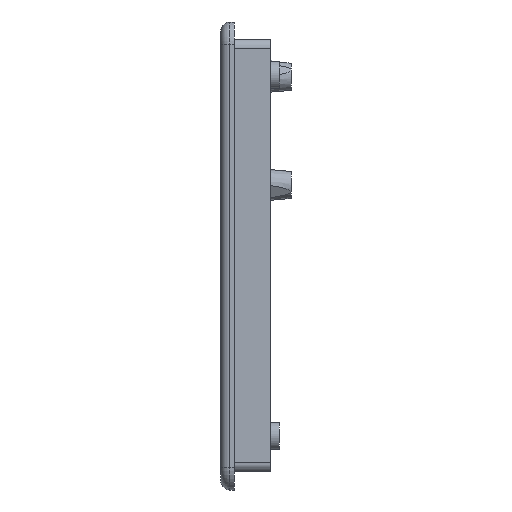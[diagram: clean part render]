
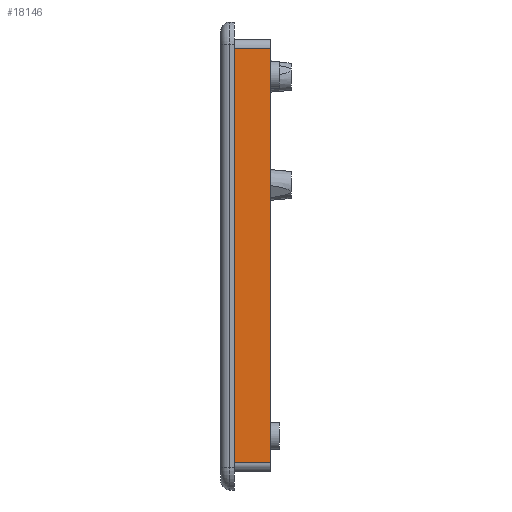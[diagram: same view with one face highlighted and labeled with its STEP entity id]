
A CAD part, left-side view. The second image highlights one B-rep face of the part: STEP entity #18146.
In plain terms, the highlighted planar face has unit normal (-1, 0, 0).
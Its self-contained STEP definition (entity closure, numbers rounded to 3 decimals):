
#1910=FACE_OUTER_BOUND('',#3052,.T.);
#3052=EDGE_LOOP('',(#16398,#16399,#16400,#16401));
#4984=LINE('',#31573,#6921);
#4992=LINE('',#31595,#6929);
#4993=LINE('',#31598,#6930);
#4994=LINE('',#31599,#6931);
#6921=VECTOR('',#24064,10.);
#6929=VECTOR('',#24088,10.);
#6930=VECTOR('',#24091,10.);
#6931=VECTOR('',#24092,10.);
#8774=VERTEX_POINT('',#31558);
#8781=VERTEX_POINT('',#31571);
#8787=VERTEX_POINT('',#31593);
#8788=VERTEX_POINT('',#31597);
#11320=EDGE_CURVE('',#8781,#8774,#4984,.T.);
#11331=EDGE_CURVE('',#8787,#8774,#4992,.T.);
#11332=EDGE_CURVE('',#8787,#8788,#4993,.T.);
#11333=EDGE_CURVE('',#8788,#8781,#4994,.T.);
#16398=ORIENTED_EDGE('',*,*,#11332,.F.);
#16399=ORIENTED_EDGE('',*,*,#11331,.T.);
#16400=ORIENTED_EDGE('',*,*,#11320,.F.);
#16401=ORIENTED_EDGE('',*,*,#11333,.F.);
#17125=PLANE('',#19496);
#18146=ADVANCED_FACE('',(#1910),#17125,.T.);
#19496=AXIS2_PLACEMENT_3D('',#31596,#24089,#24090);
#24064=DIRECTION('',(0.,0.,-1.));
#24088=DIRECTION('',(0.,-1.,0.));
#24089=DIRECTION('center_axis',(-1.,0.,0.));
#24090=DIRECTION('ref_axis',(0.,0.,-1.));
#24091=DIRECTION('',(0.,0.,1.));
#24092=DIRECTION('',(0.,-1.,0.));
#31558=CARTESIAN_POINT('',(-120.,-11.,-45.9));
#31571=CARTESIAN_POINT('',(-120.,-11.,46.1));
#31573=CARTESIAN_POINT('',(-120.,-11.,-45.9));
#31593=CARTESIAN_POINT('',(-120.,-3.,-45.9));
#31595=CARTESIAN_POINT('',(-120.,0.,-45.9));
#31596=CARTESIAN_POINT('Origin',(-120.,0.,46.1));
#31597=CARTESIAN_POINT('',(-120.,-3.,46.1));
#31598=CARTESIAN_POINT('',(-120.,-3.,23.05));
#31599=CARTESIAN_POINT('',(-120.,0.,46.1));
